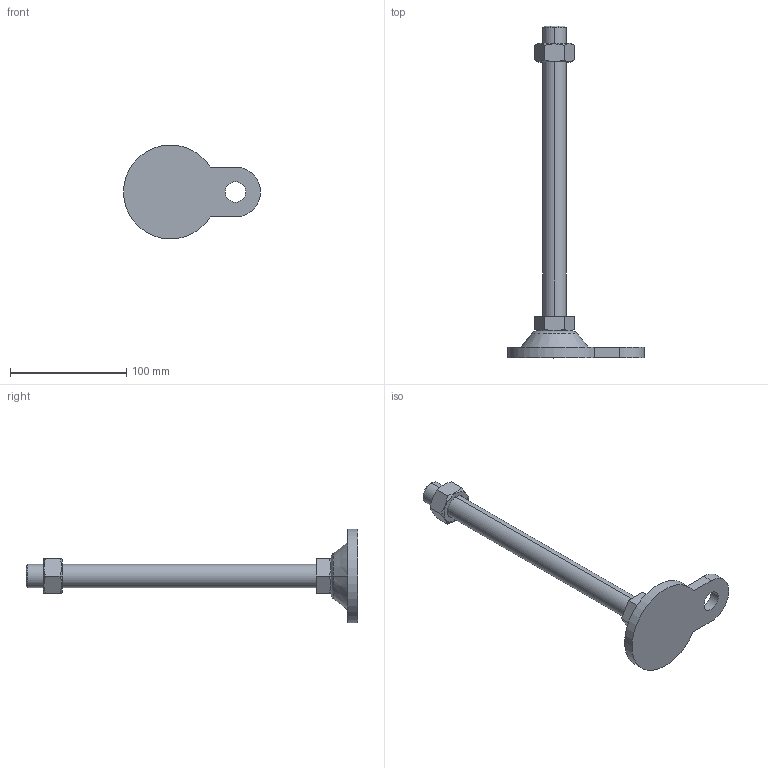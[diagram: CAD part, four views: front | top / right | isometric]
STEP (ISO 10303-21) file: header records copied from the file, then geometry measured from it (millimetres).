
FILE_DESCRIPTION (( 'STEP AP214' ), '1' );
FILE_NAME ('ARB81-M20-250.step', '2021-01-07T07:18:27', ( '' ), ( '' ), 'SwSTEP 2.0', 'SolidWorks 2019', '' );
FILE_SCHEMA (( 'AUTOMOTIVE_DESIGN' ));
Length unit declared in the file: millimetre
Products named in the file (1): ARB81-M20-250
Bounding box: 118 x 286 x 80.98 mm (x, y, z)
Volume: 178515.6 mm3; surface area: 39052.7 mm2
Topology: 3 solids, 3 shells, 46 faces, 100 edges, 62 vertices
Faces by surface type: plane 22, cone 14, cylinder 8, torus 2
Entity records: 1482 total; most frequent: CARTESIAN_POINT 419, DIRECTION 212, ORIENTED_EDGE 200, EDGE_CURVE 100, AXIS2_PLACEMENT_3D 83, VERTEX_POINT 62, EDGE_LOOP 52, FACE_OUTER_BOUND 46
